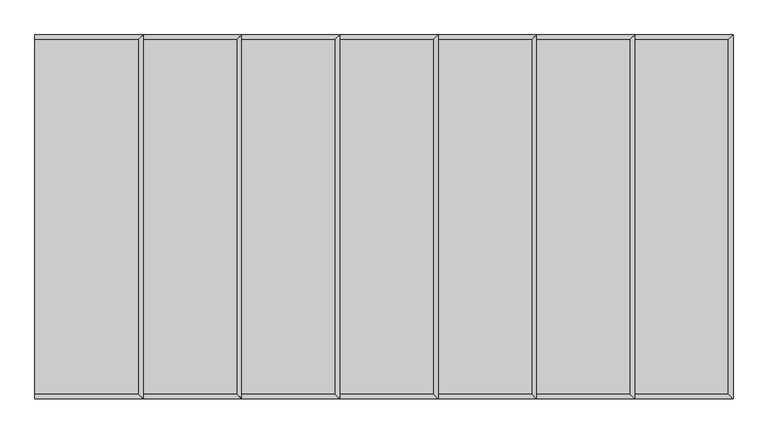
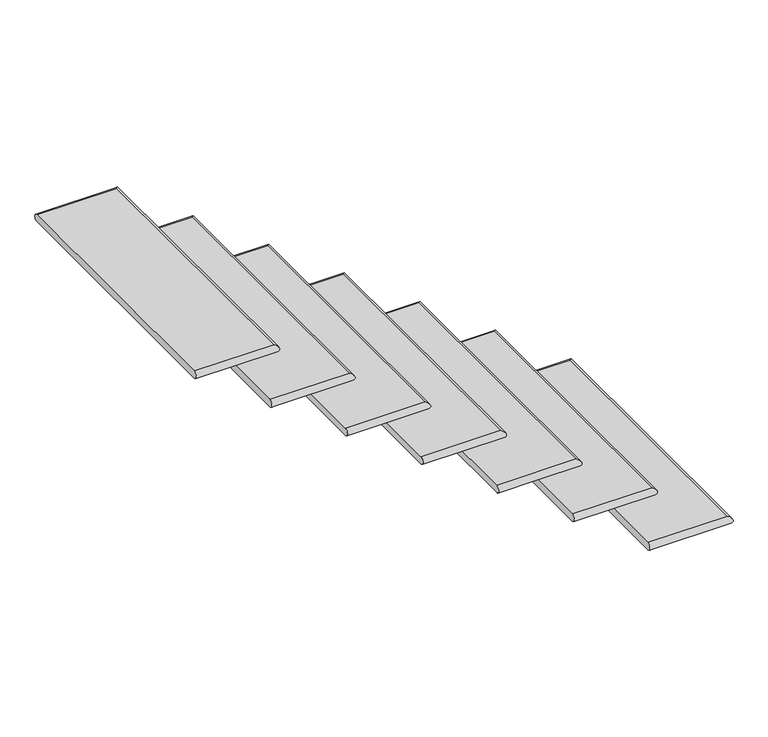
"""IFC4 building model written with IfcOpenShell, lengths in millimetres: stair flight geometry."""

from ifc_helpers import new_model, si_unit, frame, origin, place, context, project, spatial, circle_curve, ellipse_curve, source, transform, mapped, element, save
from ifc_brep_helpers import plane_surface, cylinder_surface, advanced_brep


def stair_flight_c486b3ba(model_context):
    return source(origin(), model_context, "Body", "AdvancedBrep", [
        advanced_brep(
        [(-16016.7481446, -6102.4871906, 1689.1), (-16016.7481446, -6102.4871906, 1714.5), (-16016.7481446, -7016.8871906, 1714.5), (-16016.7481446, -7016.8871906, 1689.1), (-16283.4481446, -6102.4871906, 1714.5), (-16283.4481446, -7016.8871906, 1714.5), (-16283.4481446, -7016.8871906, 1689.1), (-16283.4481446, -6102.4871906, 1689.1)],
        [
            (0, 1, ellipse_curve(frame((-16016.7481446, -6102.4871906, 1701.8), z_axis=(0.7071067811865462, -0.7071067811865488, 0.0), x_axis=(0.7071067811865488, 0.7071067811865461, 0.0)), 17.9605122, 12.7)),
            (1, 2),
            (2, 3, ellipse_curve(frame((-16016.7481446, -7016.8871906, 1701.8), z_axis=(0.7071067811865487, 0.7071067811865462, 0.0), x_axis=(-0.7071067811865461, 0.7071067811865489, 0.0)), 17.9605122, 12.7)),
            (3, 0),
            (4, 5),
            (5, 2),
            (1, 4),
            (6, 7),
            (7, 0),
            (3, 6),
            (4, 7, circle_curve(frame((-16283.4481446, -6102.4871906, 1701.8), z_axis=(-1.0, 0.0, 0.0), x_axis=(0.0, -1.0, 0.0)), 12.7)),
            (6, 5, circle_curve(frame((-16283.4481446, -7016.8871906, 1701.8), z_axis=(-1.0, 0.0, 0.0), x_axis=(0.0, 1.0, 0.0)), 12.7)),
        ],
        [
            cylinder_surface(frame((-16016.7481446, -6102.4871906, 1701.8), z_axis=(0.0, 1.0, 0.0), x_axis=(-1.0, 0.0, 0.0)), 12.7),
            plane_surface(frame((-16004.0481446, -7016.8871906, 1714.5), z_axis=(0.0, 0.0, 1.0), x_axis=(1.0, 0.0, 0.0))),
            plane_surface(frame((-16004.0481446, -7016.8871906, 1689.1), z_axis=(0.0, 0.0, -1.0), x_axis=(-1.0, 0.0, 0.0))),
            plane_surface(frame((-16283.4481446, -6102.4871906, 1714.5), z_axis=(-1.0, 0.0, 0.0), x_axis=(0.0, 0.0, -1.0))),
            cylinder_surface(frame((-16283.4481446, -6102.4871906, 1701.8), z_axis=(-1.0, 0.0, 0.0), x_axis=(0.0, -1.0, 0.0)), 12.7),
            cylinder_surface(frame((-16016.7481446, -7016.8871906, 1701.8), z_axis=(1.0, 0.0, 0.0), x_axis=(0.0, 1.0, 0.0)), 12.7),
        ],
        [
            (0, [[1, 2, 3, 4]]),
            (1, [[5, 6, -2, 7]]),
            (2, [[8, 9, -4, 10]]),
            (3, [[-5, 11, -8, 12]]),
            (4, [[-11, -7, -1, -9]]),
            (5, [[-3, -6, -12, -10]]),
        ],
    ),
        advanced_brep(
        [(-16537.4481446, -6102.4871906, 1905.0), (-16537.4481446, -7016.8871906, 1905.0), (-16270.7481446, -7016.8871906, 1905.0), (-16270.7481446, -6102.4871906, 1905.0), (-16537.4481446, -7016.8871906, 1879.6), (-16537.4481446, -6102.4871906, 1879.6), (-16270.7481446, -6102.4871906, 1879.6), (-16270.7481446, -7016.8871906, 1879.6)],
        [
            (0, 1),
            (1, 2),
            (2, 3),
            (3, 0),
            (4, 5),
            (5, 6),
            (6, 7),
            (7, 4),
            (0, 5, circle_curve(frame((-16537.4481446, -6102.4871906, 1892.3), z_axis=(-1.0, 0.0, 0.0), x_axis=(0.0, -1.0, 0.0)), 12.7)),
            (4, 1, circle_curve(frame((-16537.4481446, -7016.8871906, 1892.3), z_axis=(-1.0, 0.0, 0.0), x_axis=(0.0, 1.0, 0.0)), 12.7)),
            (6, 3, ellipse_curve(frame((-16270.7481446, -6102.4871906, 1892.3), z_axis=(0.7071067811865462, -0.7071067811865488, 0.0), x_axis=(0.7071067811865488, 0.7071067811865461, 0.0)), 17.9605122, 12.7)),
            (2, 7, ellipse_curve(frame((-16270.7481446, -7016.8871906, 1892.3), z_axis=(0.7071067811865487, 0.7071067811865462, 0.0), x_axis=(-0.7071067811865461, 0.7071067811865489, 0.0)), 17.9605122, 12.7)),
        ],
        [
            plane_surface(frame((-16258.0481446, -7016.8871906, 1905.0), z_axis=(0.0, 0.0, 1.0), x_axis=(1.0, 0.0, 0.0))),
            plane_surface(frame((-16258.0481446, -7016.8871906, 1879.6), z_axis=(0.0, 0.0, -1.0), x_axis=(-1.0, 0.0, 0.0))),
            plane_surface(frame((-16537.4481446, -6102.4871906, 1905.0), z_axis=(-1.0, 0.0, 0.0), x_axis=(0.0, 0.0, -1.0))),
            cylinder_surface(frame((-16270.7481446, -6102.4871906, 1892.3), z_axis=(0.0, 1.0, 0.0), x_axis=(-1.0, 0.0, 0.0)), 12.7),
            cylinder_surface(frame((-16537.4481446, -6102.4871906, 1892.3), z_axis=(-1.0, 0.0, 0.0), x_axis=(0.0, -1.0, 0.0)), 12.7),
            cylinder_surface(frame((-16270.7481446, -7016.8871906, 1892.3), z_axis=(1.0, 0.0, 0.0), x_axis=(0.0, 1.0, 0.0)), 12.7),
        ],
        [
            (0, [[1, 2, 3, 4]]),
            (1, [[5, 6, 7, 8]]),
            (2, [[-1, 9, -5, 10]]),
            (3, [[11, -3, 12, -7]]),
            (4, [[-9, -4, -11, -6]]),
            (5, [[-12, -2, -10, -8]]),
        ],
    ),
        advanced_brep(
        [(-16791.4481446, -6102.4871906, 2095.5), (-16791.4481446, -7016.8871906, 2095.5), (-16524.7481446, -7016.8871906, 2095.5), (-16524.7481446, -6102.4871906, 2095.5), (-16791.4481446, -7016.8871906, 2070.1), (-16791.4481446, -6102.4871906, 2070.1), (-16524.7481446, -6102.4871906, 2070.1), (-16524.7481446, -7016.8871906, 2070.1)],
        [
            (0, 1),
            (1, 2),
            (2, 3),
            (3, 0),
            (4, 5),
            (5, 6),
            (6, 7),
            (7, 4),
            (0, 5, circle_curve(frame((-16791.4481446, -6102.4871906, 2082.8), z_axis=(-1.0, 0.0, 0.0), x_axis=(0.0, -1.0, 0.0)), 12.7)),
            (4, 1, circle_curve(frame((-16791.4481446, -7016.8871906, 2082.8), z_axis=(-1.0, 0.0, 0.0), x_axis=(0.0, 1.0, 0.0)), 12.7)),
            (6, 3, ellipse_curve(frame((-16524.7481446, -6102.4871906, 2082.8), z_axis=(0.7071067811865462, -0.7071067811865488, 0.0), x_axis=(0.7071067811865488, 0.7071067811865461, 0.0)), 17.9605122, 12.7)),
            (2, 7, ellipse_curve(frame((-16524.7481446, -7016.8871906, 2082.8), z_axis=(0.7071067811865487, 0.7071067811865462, 0.0), x_axis=(-0.7071067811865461, 0.7071067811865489, 0.0)), 17.9605122, 12.7)),
        ],
        [
            plane_surface(frame((-16512.0481446, -7016.8871906, 2095.5), z_axis=(0.0, 0.0, 1.0), x_axis=(1.0, 0.0, 0.0))),
            plane_surface(frame((-16512.0481446, -7016.8871906, 2070.1), z_axis=(0.0, 0.0, -1.0), x_axis=(-1.0, 0.0, 0.0))),
            plane_surface(frame((-16791.4481446, -6102.4871906, 2095.5), z_axis=(-1.0, 0.0, 0.0), x_axis=(0.0, 0.0, -1.0))),
            cylinder_surface(frame((-16524.7481446, -6102.4871906, 2082.8), z_axis=(0.0, 1.0, 0.0), x_axis=(-1.0, 0.0, 0.0)), 12.7),
            cylinder_surface(frame((-16791.4481446, -6102.4871906, 2082.8), z_axis=(-1.0, 0.0, 0.0), x_axis=(0.0, -1.0, 0.0)), 12.7),
            cylinder_surface(frame((-16524.7481446, -7016.8871906, 2082.8), z_axis=(1.0, 0.0, 0.0), x_axis=(0.0, 1.0, 0.0)), 12.7),
        ],
        [
            (0, [[1, 2, 3, 4]]),
            (1, [[5, 6, 7, 8]]),
            (2, [[-1, 9, -5, 10]]),
            (3, [[11, -3, 12, -7]]),
            (4, [[-9, -4, -11, -6]]),
            (5, [[-12, -2, -10, -8]]),
        ],
    ),
        advanced_brep(
        [(-17045.4481446, -6102.4871906, 2286.0), (-17045.4481446, -7016.8871906, 2286.0), (-16778.7481446, -7016.8871906, 2286.0), (-16778.7481446, -6102.4871906, 2286.0), (-17045.4481446, -7016.8871906, 2260.6), (-17045.4481446, -6102.4871906, 2260.6), (-16778.7481446, -6102.4871906, 2260.6), (-16778.7481446, -7016.8871906, 2260.6)],
        [
            (0, 1),
            (1, 2),
            (2, 3),
            (3, 0),
            (4, 5),
            (5, 6),
            (6, 7),
            (7, 4),
            (0, 5, circle_curve(frame((-17045.4481446, -6102.4871906, 2273.3), z_axis=(-1.0, 0.0, 0.0), x_axis=(0.0, -1.0, 0.0)), 12.7)),
            (4, 1, circle_curve(frame((-17045.4481446, -7016.8871906, 2273.3), z_axis=(-1.0, 0.0, 0.0), x_axis=(0.0, 1.0, 0.0)), 12.7)),
            (6, 3, ellipse_curve(frame((-16778.7481446, -6102.4871906, 2273.3), z_axis=(0.7071067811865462, -0.7071067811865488, 0.0), x_axis=(0.7071067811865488, 0.7071067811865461, 0.0)), 17.9605122, 12.7)),
            (2, 7, ellipse_curve(frame((-16778.7481446, -7016.8871906, 2273.3), z_axis=(0.7071067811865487, 0.7071067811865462, 0.0), x_axis=(-0.7071067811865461, 0.7071067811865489, 0.0)), 17.9605122, 12.7)),
        ],
        [
            plane_surface(frame((-16766.0481446, -7016.8871906, 2286.0), z_axis=(0.0, 0.0, 1.0), x_axis=(1.0, 0.0, 0.0))),
            plane_surface(frame((-16766.0481446, -7016.8871906, 2260.6), z_axis=(0.0, 0.0, -1.0), x_axis=(-1.0, 0.0, 0.0))),
            plane_surface(frame((-17045.4481446, -6102.4871906, 2286.0), z_axis=(-1.0, 0.0, 0.0), x_axis=(0.0, 0.0, -1.0))),
            cylinder_surface(frame((-16778.7481446, -6102.4871906, 2273.3), z_axis=(0.0, 1.0, 0.0), x_axis=(-1.0, 0.0, 0.0)), 12.7),
            cylinder_surface(frame((-17045.4481446, -6102.4871906, 2273.3), z_axis=(-1.0, 0.0, 0.0), x_axis=(0.0, -1.0, 0.0)), 12.7),
            cylinder_surface(frame((-16778.7481446, -7016.8871906, 2273.3), z_axis=(1.0, 0.0, 0.0), x_axis=(0.0, 1.0, 0.0)), 12.7),
        ],
        [
            (0, [[1, 2, 3, 4]]),
            (1, [[5, 6, 7, 8]]),
            (2, [[-1, 9, -5, 10]]),
            (3, [[11, -3, 12, -7]]),
            (4, [[-9, -4, -11, -6]]),
            (5, [[-12, -2, -10, -8]]),
        ],
    ),
        advanced_brep(
        [(-17299.4481446, -6102.4871906, 2476.5), (-17299.4481446, -7016.8871906, 2476.5), (-17032.7481446, -7016.8871906, 2476.5), (-17032.7481446, -6102.4871906, 2476.5), (-17299.4481446, -7016.8871906, 2451.1), (-17299.4481446, -6102.4871906, 2451.1), (-17032.7481446, -6102.4871906, 2451.1), (-17032.7481446, -7016.8871906, 2451.1)],
        [
            (0, 1),
            (1, 2),
            (2, 3),
            (3, 0),
            (4, 5),
            (5, 6),
            (6, 7),
            (7, 4),
            (0, 5, circle_curve(frame((-17299.4481446, -6102.4871906, 2463.8), z_axis=(-1.0, 0.0, 0.0), x_axis=(0.0, -1.0, 0.0)), 12.7)),
            (4, 1, circle_curve(frame((-17299.4481446, -7016.8871906, 2463.8), z_axis=(-1.0, 0.0, 0.0), x_axis=(0.0, 1.0, 0.0)), 12.7)),
            (6, 3, ellipse_curve(frame((-17032.7481446, -6102.4871906, 2463.8), z_axis=(0.7071067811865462, -0.7071067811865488, 0.0), x_axis=(0.7071067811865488, 0.7071067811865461, 0.0)), 17.9605122, 12.7)),
            (2, 7, ellipse_curve(frame((-17032.7481446, -7016.8871906, 2463.8), z_axis=(0.7071067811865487, 0.7071067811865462, 0.0), x_axis=(-0.7071067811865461, 0.7071067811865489, 0.0)), 17.9605122, 12.7)),
        ],
        [
            plane_surface(frame((-17020.0481446, -7016.8871906, 2476.5), z_axis=(0.0, 0.0, 1.0), x_axis=(1.0, 0.0, 0.0))),
            plane_surface(frame((-17020.0481446, -7016.8871906, 2451.1), z_axis=(0.0, 0.0, -1.0), x_axis=(-1.0, 0.0, 0.0))),
            plane_surface(frame((-17299.4481446, -6102.4871906, 2476.5), z_axis=(-1.0, 0.0, 0.0), x_axis=(0.0, 0.0, -1.0))),
            cylinder_surface(frame((-17032.7481446, -6102.4871906, 2463.8), z_axis=(0.0, 1.0, 0.0), x_axis=(-1.0, 0.0, 0.0)), 12.7),
            cylinder_surface(frame((-17299.4481446, -6102.4871906, 2463.8), z_axis=(-1.0, 0.0, 0.0), x_axis=(0.0, -1.0, 0.0)), 12.7),
            cylinder_surface(frame((-17032.7481446, -7016.8871906, 2463.8), z_axis=(1.0, 0.0, 0.0), x_axis=(0.0, 1.0, 0.0)), 12.7),
        ],
        [
            (0, [[1, 2, 3, 4]]),
            (1, [[5, 6, 7, 8]]),
            (2, [[-1, 9, -5, 10]]),
            (3, [[11, -3, 12, -7]]),
            (4, [[-9, -4, -11, -6]]),
            (5, [[-12, -2, -10, -8]]),
        ],
    ),
        advanced_brep(
        [(-17553.4481446, -6102.4871906, 2667.0), (-17553.4481446, -7016.8871906, 2667.0), (-17286.7481446, -7016.8871906, 2667.0), (-17286.7481446, -6102.4871906, 2667.0), (-17553.4481446, -7016.8871906, 2641.6), (-17553.4481446, -6102.4871906, 2641.6), (-17286.7481446, -6102.4871906, 2641.6), (-17286.7481446, -7016.8871906, 2641.6)],
        [
            (0, 1),
            (1, 2),
            (2, 3),
            (3, 0),
            (4, 5),
            (5, 6),
            (6, 7),
            (7, 4),
            (0, 5, circle_curve(frame((-17553.4481446, -6102.4871906, 2654.3), z_axis=(-1.0, 0.0, 0.0), x_axis=(0.0, -1.0, 0.0)), 12.7)),
            (4, 1, circle_curve(frame((-17553.4481446, -7016.8871906, 2654.3), z_axis=(-1.0, 0.0, 0.0), x_axis=(0.0, 1.0, 0.0)), 12.7)),
            (6, 3, ellipse_curve(frame((-17286.7481446, -6102.4871906, 2654.3), z_axis=(0.7071067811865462, -0.7071067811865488, 0.0), x_axis=(0.7071067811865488, 0.7071067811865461, 0.0)), 17.9605122, 12.7)),
            (2, 7, ellipse_curve(frame((-17286.7481446, -7016.8871906, 2654.3), z_axis=(0.7071067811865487, 0.7071067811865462, 0.0), x_axis=(-0.7071067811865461, 0.7071067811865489, 0.0)), 17.9605122, 12.7)),
        ],
        [
            plane_surface(frame((-17274.0481446, -7016.8871906, 2667.0), z_axis=(0.0, 0.0, 1.0), x_axis=(1.0, 0.0, 0.0))),
            plane_surface(frame((-17274.0481446, -7016.8871906, 2641.6), z_axis=(0.0, 0.0, -1.0), x_axis=(-1.0, 0.0, 0.0))),
            plane_surface(frame((-17553.4481446, -6102.4871906, 2667.0), z_axis=(-1.0, 0.0, 0.0), x_axis=(0.0, 0.0, -1.0))),
            cylinder_surface(frame((-17286.7481446, -6102.4871906, 2654.3), z_axis=(0.0, 1.0, 0.0), x_axis=(-1.0, 0.0, 0.0)), 12.7),
            cylinder_surface(frame((-17553.4481446, -6102.4871906, 2654.3), z_axis=(-1.0, 0.0, 0.0), x_axis=(0.0, -1.0, 0.0)), 12.7),
            cylinder_surface(frame((-17286.7481446, -7016.8871906, 2654.3), z_axis=(1.0, 0.0, 0.0), x_axis=(0.0, 1.0, 0.0)), 12.7),
        ],
        [
            (0, [[1, 2, 3, 4]]),
            (1, [[5, 6, 7, 8]]),
            (2, [[-1, 9, -5, 10]]),
            (3, [[11, -3, 12, -7]]),
            (4, [[-9, -4, -11, -6]]),
            (5, [[-12, -2, -10, -8]]),
        ],
    ),
        advanced_brep(
        [(-17807.4481446, -6102.4871906, 2857.5), (-17807.4481446, -7016.8871906, 2857.5), (-17540.7481446, -7016.8871906, 2857.5), (-17540.7481446, -6102.4871906, 2857.5), (-17807.4481446, -7016.8871906, 2832.1), (-17807.4481446, -6102.4871906, 2832.1), (-17540.7481446, -6102.4871906, 2832.1), (-17540.7481446, -7016.8871906, 2832.1)],
        [
            (0, 1),
            (1, 2),
            (2, 3),
            (3, 0),
            (4, 5),
            (5, 6),
            (6, 7),
            (7, 4),
            (0, 5, circle_curve(frame((-17807.4481446, -6102.4871906, 2844.8), z_axis=(-1.0, 0.0, 0.0), x_axis=(0.0, -1.0, 0.0)), 12.7)),
            (4, 1, circle_curve(frame((-17807.4481446, -7016.8871906, 2844.8), z_axis=(-1.0, 0.0, 0.0), x_axis=(0.0, 1.0, 0.0)), 12.7)),
            (6, 3, ellipse_curve(frame((-17540.7481446, -6102.4871906, 2844.8), z_axis=(0.7071067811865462, -0.7071067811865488, 0.0), x_axis=(0.7071067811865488, 0.7071067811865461, 0.0)), 17.9605122, 12.7)),
            (2, 7, ellipse_curve(frame((-17540.7481446, -7016.8871906, 2844.8), z_axis=(0.7071067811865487, 0.7071067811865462, 0.0), x_axis=(-0.7071067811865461, 0.7071067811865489, 0.0)), 17.9605122, 12.7)),
        ],
        [
            plane_surface(frame((-17528.0481446, -7016.8871906, 2857.5), z_axis=(0.0, 0.0, 1.0), x_axis=(1.0, 0.0, 0.0))),
            plane_surface(frame((-17528.0481446, -7016.8871906, 2832.1), z_axis=(0.0, 0.0, -1.0), x_axis=(-1.0, 0.0, 0.0))),
            plane_surface(frame((-17807.4481446, -6102.4871906, 2857.5), z_axis=(-1.0, 0.0, 0.0), x_axis=(0.0, 0.0, -1.0))),
            cylinder_surface(frame((-17540.7481446, -6102.4871906, 2844.8), z_axis=(0.0, 1.0, 0.0), x_axis=(-1.0, 0.0, 0.0)), 12.7),
            cylinder_surface(frame((-17807.4481446, -6102.4871906, 2844.8), z_axis=(-1.0, 0.0, 0.0), x_axis=(0.0, -1.0, 0.0)), 12.7),
            cylinder_surface(frame((-17540.7481446, -7016.8871906, 2844.8), z_axis=(1.0, 0.0, 0.0), x_axis=(0.0, 1.0, 0.0)), 12.7),
        ],
        [
            (0, [[1, 2, 3, 4]]),
            (1, [[5, 6, 7, 8]]),
            (2, [[-1, 9, -5, 10]]),
            (3, [[11, -3, 12, -7]]),
            (4, [[-9, -4, -11, -6]]),
            (5, [[-12, -2, -10, -8]]),
        ],
    ),
    ])


if __name__ == "__main__":
    model = new_model("IFC4")
    model_context = context("Model", 3, world=origin())
    ifc_project = project(units=[si_unit("LENGTHUNIT", "METRE", prefix="MILLI")], contexts=[model_context])
    site = spatial("IfcSite", under=ifc_project)
    building = spatial("IfcBuilding", under=site)
    placement = place(None, origin())
    stair_flight_shape = stair_flight_c486b3ba(model_context)
    element("IfcStairFlight", 1, ObjectType="Unassigned Steps with 1\" Tread 1\" Nosing", at=placement, inside=building, context=model_context, shape_type="MappedRepresentation", body=[
        mapped(stair_flight_shape, transform((0.0, 0.0, 0.0), x_axis=(1.0, 0.0, 0.0), y_axis=(0.0, 1.0, 0.0), z_axis=(0.0, 0.0, 1.0))),
    ])
    save(model, "model.ifc")
